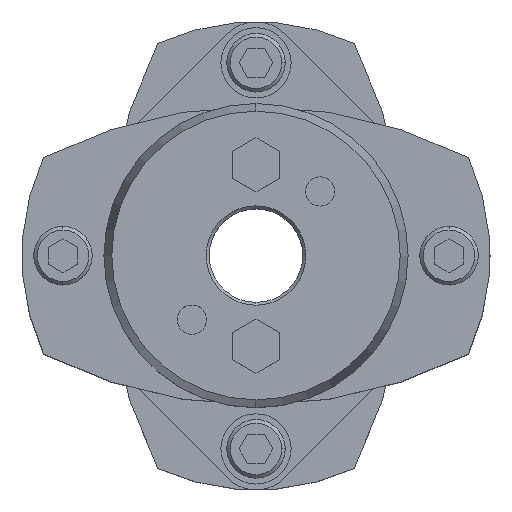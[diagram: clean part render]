
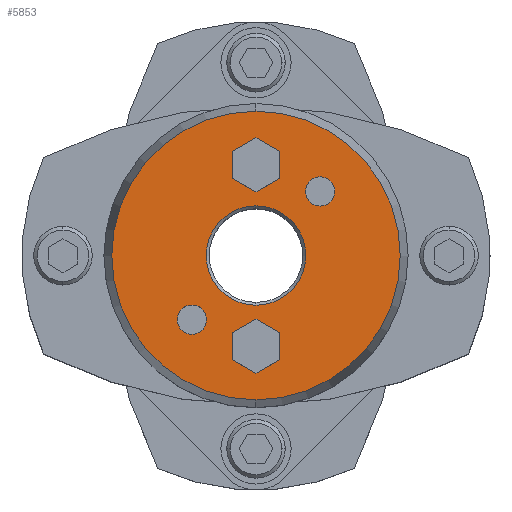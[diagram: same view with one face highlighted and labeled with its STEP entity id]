
A CAD part, top view. The second image highlights one B-rep face of the part: STEP entity #5853.
In plain terms, the highlighted planar face has unit normal (0, 0, 1).
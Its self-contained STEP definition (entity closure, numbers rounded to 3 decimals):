
#1677=CARTESIAN_POINT('',(0.,8.5,45.25));
#1678=VERTEX_POINT('',#1677);
#1694=CARTESIAN_POINT('',(0.,-8.5,45.25));
#1695=VERTEX_POINT('',#1694);
#1702=CARTESIAN_POINT('',(0.,0.,45.25));
#1703=DIRECTION('',(0.0,0.0,1.0));
#1704=DIRECTION('',(0.0,1.0,0.0));
#1705=AXIS2_PLACEMENT_3D('',#1702,#1703,#1704);
#1706=CIRCLE('',#1705,8.5);
#1707=EDGE_CURVE('',#1695,#1678,#1706,.T.);
#1865=CARTESIAN_POINT('',(0.,-24.66,45.25));
#1866=VERTEX_POINT('',#1865);
#1873=CARTESIAN_POINT('',(0.,24.66,45.25));
#1874=VERTEX_POINT('',#1873);
#1875=CARTESIAN_POINT('',(0.,0.,45.25));
#1876=DIRECTION('',(0.0,0.0,-1.0));
#1877=DIRECTION('',(0.0,-1.0,0.0));
#1878=AXIS2_PLACEMENT_3D('',#1875,#1876,#1877);
#1879=CIRCLE('',#1878,24.66);
#1880=EDGE_CURVE('',#1866,#1874,#1879,.T.);
#1975=CARTESIAN_POINT('',(10.96,13.46,45.25));
#1976=VERTEX_POINT('',#1975);
#1992=CARTESIAN_POINT('',(10.96,8.46,45.25));
#1993=VERTEX_POINT('',#1992);
#2000=CARTESIAN_POINT('',(10.96,10.96,45.25));
#2001=DIRECTION('',(0.0,0.0,-1.0));
#2002=DIRECTION('',(0.0,1.0,0.0));
#2003=AXIS2_PLACEMENT_3D('',#2000,#2001,#2002);
#2004=CIRCLE('',#2003,2.5);
#2005=EDGE_CURVE('',#1976,#1993,#2004,.T.);
#2017=CARTESIAN_POINT('',(-10.96,-8.46,45.25));
#2018=VERTEX_POINT('',#2017);
#2034=CARTESIAN_POINT('',(-10.96,-13.46,45.25));
#2035=VERTEX_POINT('',#2034);
#2042=CARTESIAN_POINT('',(-10.96,-10.96,45.25));
#2043=DIRECTION('',(0.0,0.0,-1.0));
#2044=DIRECTION('',(0.0,1.0,0.0));
#2045=AXIS2_PLACEMENT_3D('',#2042,#2043,#2044);
#2046=CIRCLE('',#2045,2.5);
#2047=EDGE_CURVE('',#2018,#2035,#2046,.T.);
#5097=CARTESIAN_POINT('',(0.,-10.881,45.25));
#5098=VERTEX_POINT('',#5097);
#5105=CARTESIAN_POINT('',(-4.,-13.191,45.25));
#5106=VERTEX_POINT('',#5105);
#5107=CARTESIAN_POINT('',(-4.,-13.191,45.25));
#5108=DIRECTION('',(0.866,0.5,0.0));
#5109=VECTOR('',#5108,4.619);
#5110=LINE('',#5107,#5109);
#5111=EDGE_CURVE('',#5106,#5098,#5110,.T.);
#5135=CARTESIAN_POINT('',(4.,-13.191,45.25));
#5136=VERTEX_POINT('',#5135);
#5143=CARTESIAN_POINT('',(0.,-10.881,45.25));
#5144=DIRECTION('',(0.866,-0.5,0.0));
#5145=VECTOR('',#5144,4.619);
#5146=LINE('',#5143,#5145);
#5147=EDGE_CURVE('',#5098,#5136,#5146,.T.);
#5166=CARTESIAN_POINT('',(4.,-17.809,45.25));
#5167=VERTEX_POINT('',#5166);
#5174=CARTESIAN_POINT('',(4.,-13.191,45.25));
#5175=DIRECTION('',(0.0,-1.0,0.0));
#5176=VECTOR('',#5175,4.619);
#5177=LINE('',#5174,#5176);
#5178=EDGE_CURVE('',#5136,#5167,#5177,.T.);
#5197=CARTESIAN_POINT('',(0.,-20.119,45.25));
#5198=VERTEX_POINT('',#5197);
#5205=CARTESIAN_POINT('',(4.,-17.809,45.25));
#5206=DIRECTION('',(-0.866,-0.5,0.0));
#5207=VECTOR('',#5206,4.619);
#5208=LINE('',#5205,#5207);
#5209=EDGE_CURVE('',#5167,#5198,#5208,.T.);
#5228=CARTESIAN_POINT('',(-4.,-17.809,45.25));
#5229=VERTEX_POINT('',#5228);
#5236=CARTESIAN_POINT('',(0.,-20.119,45.25));
#5237=DIRECTION('',(-0.866,0.5,0.0));
#5238=VECTOR('',#5237,4.619);
#5239=LINE('',#5236,#5238);
#5240=EDGE_CURVE('',#5198,#5229,#5239,.T.);
#5258=CARTESIAN_POINT('',(-4.,-17.809,45.25));
#5259=DIRECTION('',(0.0,1.0,0.0));
#5260=VECTOR('',#5259,4.619);
#5261=LINE('',#5258,#5260);
#5262=EDGE_CURVE('',#5229,#5106,#5261,.T.);
#5297=CARTESIAN_POINT('',(0.,20.119,45.25));
#5298=VERTEX_POINT('',#5297);
#5305=CARTESIAN_POINT('',(-4.,17.809,45.25));
#5306=VERTEX_POINT('',#5305);
#5307=CARTESIAN_POINT('',(-4.,17.809,45.25));
#5308=DIRECTION('',(0.866,0.5,0.0));
#5309=VECTOR('',#5308,4.619);
#5310=LINE('',#5307,#5309);
#5311=EDGE_CURVE('',#5306,#5298,#5310,.T.);
#5335=CARTESIAN_POINT('',(4.,17.809,45.25));
#5336=VERTEX_POINT('',#5335);
#5343=CARTESIAN_POINT('',(0.,20.119,45.25));
#5344=DIRECTION('',(0.866,-0.5,0.0));
#5345=VECTOR('',#5344,4.619);
#5346=LINE('',#5343,#5345);
#5347=EDGE_CURVE('',#5298,#5336,#5346,.T.);
#5366=CARTESIAN_POINT('',(4.,13.191,45.25));
#5367=VERTEX_POINT('',#5366);
#5374=CARTESIAN_POINT('',(4.,17.809,45.25));
#5375=DIRECTION('',(0.0,-1.0,0.0));
#5376=VECTOR('',#5375,4.619);
#5377=LINE('',#5374,#5376);
#5378=EDGE_CURVE('',#5336,#5367,#5377,.T.);
#5397=CARTESIAN_POINT('',(0.,10.881,45.25));
#5398=VERTEX_POINT('',#5397);
#5405=CARTESIAN_POINT('',(4.,13.191,45.25));
#5406=DIRECTION('',(-0.866,-0.5,0.0));
#5407=VECTOR('',#5406,4.619);
#5408=LINE('',#5405,#5407);
#5409=EDGE_CURVE('',#5367,#5398,#5408,.T.);
#5428=CARTESIAN_POINT('',(-4.,13.191,45.25));
#5429=VERTEX_POINT('',#5428);
#5436=CARTESIAN_POINT('',(0.,10.881,45.25));
#5437=DIRECTION('',(-0.866,0.5,0.0));
#5438=VECTOR('',#5437,4.619);
#5439=LINE('',#5436,#5438);
#5440=EDGE_CURVE('',#5398,#5429,#5439,.T.);
#5458=CARTESIAN_POINT('',(-4.,13.191,45.25));
#5459=DIRECTION('',(0.0,1.0,0.0));
#5460=VECTOR('',#5459,4.619);
#5461=LINE('',#5458,#5460);
#5462=EDGE_CURVE('',#5429,#5306,#5461,.T.);
#5488=CARTESIAN_POINT('',(-10.96,-10.96,45.25));
#5489=DIRECTION('',(0.0,0.0,-1.0));
#5490=DIRECTION('',(0.0,1.0,0.0));
#5491=AXIS2_PLACEMENT_3D('',#5488,#5489,#5490);
#5492=CIRCLE('',#5491,2.5);
#5493=EDGE_CURVE('',#2035,#2018,#5492,.T.);
#5522=CARTESIAN_POINT('',(10.96,10.96,45.25));
#5523=DIRECTION('',(0.0,0.0,-1.0));
#5524=DIRECTION('',(0.0,1.0,0.0));
#5525=AXIS2_PLACEMENT_3D('',#5522,#5523,#5524);
#5526=CIRCLE('',#5525,2.5);
#5527=EDGE_CURVE('',#1993,#1976,#5526,.T.);
#5800=CARTESIAN_POINT('',(0.,0.,45.25));
#5801=DIRECTION('',(0.0,0.0,-1.0));
#5802=DIRECTION('',(0.0,-1.0,0.0));
#5803=AXIS2_PLACEMENT_3D('',#5800,#5801,#5802);
#5804=CIRCLE('',#5803,24.66);
#5805=EDGE_CURVE('',#1874,#1866,#5804,.T.);
#5810=CARTESIAN_POINT('',(0.,2.364,45.25));
#5811=DIRECTION('',(0.0,0.0,1.0));
#5812=DIRECTION('',(0.0,1.0,0.0));
#5813=AXIS2_PLACEMENT_3D('',#5810,#5811,#5812);
#5814=PLANE('',#5813);
#5815=ORIENTED_EDGE('',*,*,#5805,.F.);
#5816=ORIENTED_EDGE('',*,*,#1880,.F.);
#5817=EDGE_LOOP('',(#5815,#5816));
#5818=FACE_OUTER_BOUND('',#5817,.T.);
#5819=ORIENTED_EDGE('',*,*,#5111,.T.);
#5820=ORIENTED_EDGE('',*,*,#5147,.T.);
#5821=ORIENTED_EDGE('',*,*,#5178,.T.);
#5822=ORIENTED_EDGE('',*,*,#5209,.T.);
#5823=ORIENTED_EDGE('',*,*,#5240,.T.);
#5824=ORIENTED_EDGE('',*,*,#5262,.T.);
#5825=EDGE_LOOP('',(#5819,#5820,#5821,#5822,#5823,#5824));
#5826=FACE_BOUND('',#5825,.T.);
#5827=ORIENTED_EDGE('',*,*,#5311,.T.);
#5828=ORIENTED_EDGE('',*,*,#5347,.T.);
#5829=ORIENTED_EDGE('',*,*,#5378,.T.);
#5830=ORIENTED_EDGE('',*,*,#5409,.T.);
#5831=ORIENTED_EDGE('',*,*,#5440,.T.);
#5832=ORIENTED_EDGE('',*,*,#5462,.T.);
#5833=EDGE_LOOP('',(#5827,#5828,#5829,#5830,#5831,#5832));
#5834=FACE_BOUND('',#5833,.T.);
#5835=ORIENTED_EDGE('',*,*,#2047,.T.);
#5836=ORIENTED_EDGE('',*,*,#5493,.T.);
#5837=EDGE_LOOP('',(#5835,#5836));
#5838=FACE_BOUND('',#5837,.T.);
#5839=ORIENTED_EDGE('',*,*,#2005,.T.);
#5840=ORIENTED_EDGE('',*,*,#5527,.T.);
#5841=EDGE_LOOP('',(#5839,#5840));
#5842=FACE_BOUND('',#5841,.T.);
#5843=ORIENTED_EDGE('',*,*,#1707,.F.);
#5844=CARTESIAN_POINT('',(0.,0.,45.25));
#5845=DIRECTION('',(0.0,0.0,1.0));
#5846=DIRECTION('',(0.0,1.0,0.0));
#5847=AXIS2_PLACEMENT_3D('',#5844,#5845,#5846);
#5848=CIRCLE('',#5847,8.5);
#5849=EDGE_CURVE('',#1678,#1695,#5848,.T.);
#5850=ORIENTED_EDGE('',*,*,#5849,.F.);
#5851=EDGE_LOOP('',(#5843,#5850));
#5852=FACE_BOUND('',#5851,.T.);
#5853=ADVANCED_FACE('',(#5818,#5826,#5834,#5838,#5842,#5852),#5814,.T.);
